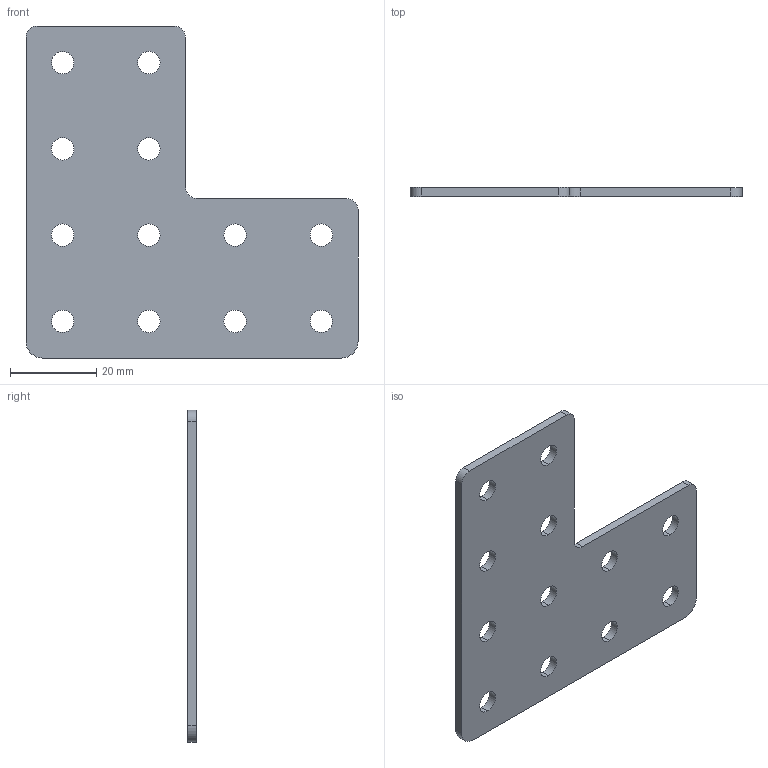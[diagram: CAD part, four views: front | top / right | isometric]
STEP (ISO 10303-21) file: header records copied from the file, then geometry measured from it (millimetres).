
FILE_DESCRIPTION (( 'STEP AP203' ), '1' );
FILE_NAME ('ﾃ-12-20.STEP', '2016-07-20T07:37:11', ( '' ), ( '' ), 'SwSTEP 2.0', 'SolidWorks 2014', '' );
FILE_SCHEMA (( 'CONFIG_CONTROL_DESIGN' ));
Length unit declared in the file: millimetre
Products named in the file (1): ﾃ-12-20
Bounding box: 77 x 2 x 77 mm (x, y, z)
Volume: 8130 mm3; surface area: 9122.6 mm2
Topology: 1 solids, 1 shells, 38 faces, 108 edges, 72 vertices
Faces by surface type: cylinder 30, plane 8
Entity records: 1397 total; most frequent: DIRECTION 246, CARTESIAN_POINT 219, ORIENTED_EDGE 216, EDGE_CURVE 108, AXIS2_PLACEMENT_3D 99, VERTEX_POINT 72, EDGE_LOOP 62, CIRCLE 60
